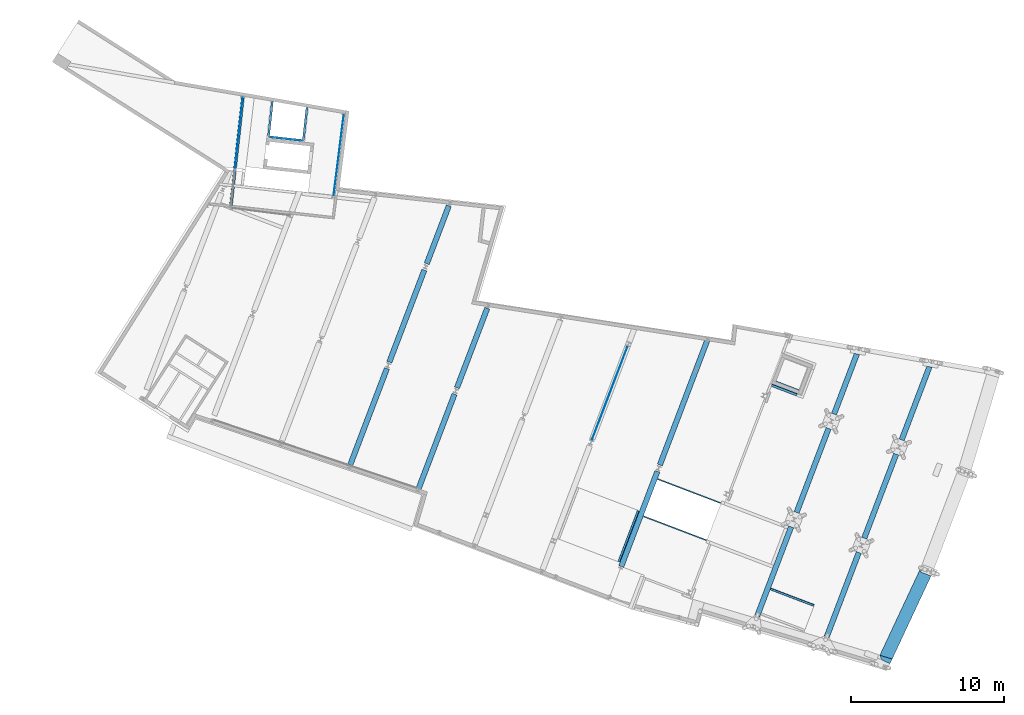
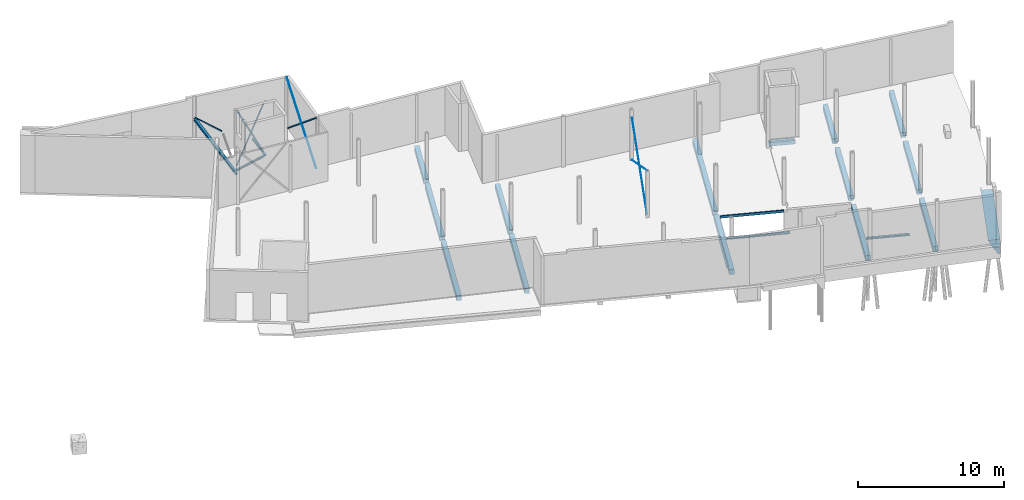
# One storey, part 40 of 46: 26 beams.
"""IFC2X3 building model written with IfcOpenShell, lengths in millimetres."""

from ifc_helpers import new_model, entity, si_unit, converted_unit, derived_unit, direction, frame, frame_2d, origin, origin_2d_with_axis, place, context, subcontext, project, spatial, polyline, circle_curve, parameter, trimmed, segment, composite_curve, rectangle, circle, i_section, outline, extrude, clip, halfspace, bounded_halfspace, source, transform, mapped, material, type_object, type_shapes, element, save


model = new_model("IFC2X3")

# Units and contexts
model_context = context("Model", 3, precision=0.01, world=origin(), true_north=direction((6.123233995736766e-17, 1.0)))
body_context = subcontext(model_context, "Body", "Model", "MODEL_VIEW")
ifc_project = project(units=[si_unit("LENGTHUNIT", "METRE", prefix="MILLI"), converted_unit("PLANEANGLEUNIT", "DEGREE", entity("IfcPlaneAngleMeasure", 0.017453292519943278), si_unit("PLANEANGLEUNIT", "RADIAN"), dimensions=[0, 0, 0, 0, 0, 0, 0]), si_unit("AREAUNIT", "SQUARE_METRE"), derived_unit("THERMALTRANSMITTANCEUNIT", [(si_unit("MASSUNIT", "GRAM", prefix="KILO"), 1), (si_unit("THERMODYNAMICTEMPERATUREUNIT", "KELVIN"), -1), (si_unit("TIMEUNIT", "SECOND"), -3)])], contexts=[model_context])

# Site, building, storey
site_placement = place(None, frame((-72937.88054949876, 11621.45624098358, 0.0), z_axis=(0.0, 0.0, 1.0), x_axis=(0.9346418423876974, -0.35559053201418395, 0.0)))
site = spatial("IfcSite", under=ifc_project, at=site_placement, Name="Default", CompositionType="ELEMENT")
building_placement = place(site_placement, origin())
building = spatial("IfcBuilding", under=site, at=building_placement, CompositionType="ELEMENT")
storey_placement = place(building_placement, origin())
storey = spatial("IfcBuildingStorey", under=building, at=storey_placement, Name="00 begane grond", CompositionType="ELEMENT", Elevation=0.0)

# Beams
ifc_material_1 = material(Name="beton_gewapend_ihw")
beam_type_1 = type_object("IfcBeamType", Name="balk 350x600mm", PredefinedType="BEAM", material=ifc_material_1)
shared_shape_1 = source(origin(), body_context, "Body", "SweptSolid", [
    extrude(rectangle(XDim=430.0000000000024, YDim=349.9999999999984, at=frame_2d((4.334310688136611e-12, 0.0), x_axis=(0.0, 1.0))), frame((48110.0, 15000.0, -445.0), z_axis=(0.0, 1.0, 0.0), x_axis=(-1.0, 0.0, 0.0)), (0.0, 0.0, 1.0), 6654.999999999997),
    clip(extrude(rectangle(XDim=430.0000000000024, YDim=349.9999999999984, at=frame_2d((-4.334310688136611e-12, 0.0), x_axis=(0.0, 1.0))), frame((48110.0, 22105.0, -445.0), z_axis=(0.0, 1.0, 0.0), x_axis=(-1.0, 0.0, 0.0)), (0.0, 0.0, 1.0), 8790.652728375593), halfspace(frame((49694.01432330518, 31194.879408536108, -3160.0), z_axis=(-0.2077333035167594, 0.9781855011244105, 0.0), x_axis=(0.9781855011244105, 0.2077333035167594, 0.0)), False)),
])
type_shapes(beam_type_1, [shared_shape_1])
beam_1_placement = place(storey_placement, origin())
element("IfcBeam", 1, at=beam_1_placement, inside=storey, type_object=beam_type_1, material=ifc_material_1, Name="28.11_SF_BetonBalk:balk 350x600mm", ObjectType="28.11_SF_BetonBalk:balk 350x600mm", context=body_context, shape_type="MappedRepresentation", body=[
    mapped(shared_shape_1, transform((0.0, 0.0, 0.0), scale=1.0)),
])
beam_type_2 = type_object("IfcBeamType", Name="balk 350x600mm", PredefinedType="BEAM", material=ifc_material_1)
shared_shape_2 = source(origin(), body_context, "Body", "SweptSolid", [
    extrude(rectangle(XDim=430.0000000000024, YDim=349.9999999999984, at=frame_2d((0.0, 0.0), x_axis=(0.0, 1.0))), frame((33920.0, 15000.0, -445.0), z_axis=(0.0, 1.0, 0.0), x_axis=(-1.0, 0.0, 0.0)), (0.0, 0.0, 1.0), 6654.999999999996),
    extrude(rectangle(XDim=430.0000000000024, YDim=349.9999999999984, at=frame_2d((0.0, 0.0), x_axis=(0.0, 1.0))), frame((33920.0, 22105.0, -445.0), z_axis=(0.0, 1.0, 0.0), x_axis=(-1.0, 0.0, 0.0)), (0.0, 0.0, 1.0), 5559.24045286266),
])
type_shapes(beam_type_2, [shared_shape_2])
beam_2_placement = place(storey_placement, origin())
element("IfcBeam", 2, at=beam_2_placement, inside=storey, type_object=beam_type_2, material=ifc_material_1, Name="28.11_SF_BetonBalk:balk 350x600mm", ObjectType="28.11_SF_BetonBalk:balk 350x600mm", context=body_context, shape_type="MappedRepresentation", body=[
    mapped(shared_shape_2, transform((0.0, 0.0, 0.0), scale=1.0)),
])
beam_type_3 = type_object("IfcBeamType", Name="balk 350x600mm", PredefinedType="BEAM", material=ifc_material_1)
shared_shape_3 = source(origin(), body_context, "Body", "SweptSolid", [
    extrude(rectangle(XDim=430.0000000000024, YDim=349.9999999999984, at=frame_2d((-4.334310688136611e-12, 0.0), x_axis=(0.0, 1.0))), frame((29190.0, 14900.0, -445.0), z_axis=(0.0, 1.0, 0.0), x_axis=(-1.0, 0.0, 0.0)), (0.0, 0.0, 1.0), 6754.999999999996),
    extrude(rectangle(XDim=430.0000000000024, YDim=349.9999999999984, at=frame_2d((0.0, 0.0), x_axis=(0.0, 1.0))), frame((29190.0, 22105.0, -445.0), z_axis=(0.0, 1.0, 0.0), x_axis=(-1.0, 0.0, 0.0)), (0.0, 0.0, 1.0), 6429.999999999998),
    extrude(rectangle(XDim=430.0000000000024, YDim=349.9999999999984, at=frame_2d((0.0, 0.0), x_axis=(0.0, 1.0))), frame((29190.0, 28985.0, -445.0), z_axis=(0.0, 1.0, 0.0), x_axis=(-1.0, 0.0, 0.0)), (0.0, 0.0, 1.0), 4046.991789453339),
])
type_shapes(beam_type_3, [shared_shape_3])
beam_3_placement = place(storey_placement, origin())
element("IfcBeam", 3, at=beam_3_placement, inside=storey, type_object=beam_type_3, material=ifc_material_1, Name="28.11_SF_BetonBalk:balk 350x600mm", ObjectType="28.11_SF_BetonBalk:balk 350x600mm", context=body_context, shape_type="MappedRepresentation", body=[
    mapped(shared_shape_3, transform((0.0, 0.0, 0.0), scale=1.0)),
])
beam_type_4 = type_object("IfcBeamType", Name="650x600mm", PredefinedType="BEAM")
beam_4_placement = place(storey_placement, frame((66761.7349930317, 14879.248170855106, -60.0), z_axis=(0.0, 0.0, 1.0), x_axis=(0.07392507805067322, 0.997263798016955, 0.0)))
element("IfcBeam", 4, at=beam_4_placement, inside=storey, type_object=beam_type_4, material=ifc_material_1, Name="16.12_Beton balk", ObjectType="i.h.w.g. versterkte betonnen strook", context=body_context, shape_type="SweptSolid", body=[
    clip(clip(clip(clip(extrude(outline(polyline([(-250.23504273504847, -500.0), (-85.23504273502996, -500.0), (585.7051282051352, 500.0), (-250.23504273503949, 500.0), (-250.23504273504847, -500.0)])), frame((428.7766095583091, 250.23504273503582, -670.0), z_axis=(1.0, 0.0, 0.0), x_axis=(0.0, 1.0, 0.0)), (0.0, 0.0, 1.0), 6554.144811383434), halfspace(frame((6975.5187855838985, 950.0, 0.0), z_axis=(0.9993157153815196, 0.03698784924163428, 0.0), x_axis=(0.03698784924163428, -0.9993157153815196, 0.0)), False)), halfspace(frame((-985.30127226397, 12706.926039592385, 0.0), z_axis=(-0.8215194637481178, -0.1211796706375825, 0.5571546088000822), x_axis=(0.14592773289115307, -0.9892952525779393, 0.0)), False)), bounded_halfspace(frame((6715.149392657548, 730.1506199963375, 0.0), z_axis=(0.997263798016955, 0.07392507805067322, 0.0), x_axis=(0.0, 0.0, -1.0)), False, frame((428.7766095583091, 250.23504273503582, -670.0), z_axis=(1.0, 0.0, 0.0), x_axis=(0.0, 1.0, 0.0)), polyline([(-85.23504273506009, -500.0), (479.9155772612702, 342.32640177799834), (479.9155772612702, 500.0), (-250.2350427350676, 500.0), (-250.2350427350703, -500.0), (-85.23504273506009, -500.0)]))), bounded_halfspace(frame((7213.781291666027, 767.1131590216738, 0.0), z_axis=(0.07392507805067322, -0.997263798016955, 0.0), x_axis=(0.0, 0.0, -1.0)), False, frame((428.7766095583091, 250.23504273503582, -670.0), z_axis=(1.0, 0.0, 0.0), x_axis=(0.0, 1.0, 0.0)), polyline([(479.9155772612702, 500.0), (479.9155772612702, 342.32640177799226), (499.7649572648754, 371.9108280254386), (499.7649572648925, 500.0), (479.9155772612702, 500.0)]))),
])
beam_type_5 = type_object("IfcBeamType", Name="balk 350x600mm", PredefinedType="BEAM")
beam_5_placement = place(storey_placement, frame((57570.0, 33979.1734244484, -60.0), z_axis=(0.0, 0.0, 1.0), x_axis=(0.0, -1.0, 0.0)))
element("IfcBeam", 5, at=beam_5_placement, inside=storey, type_object=beam_type_5, material=ifc_material_1, Name="16.12_Beton balk", ObjectType="i.h.w.g. betonnen balk", context=body_context, shape_type="SweptSolid", body=[
    clip(extrude(rectangle(XDim=430.00000000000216, YDim=349.9999999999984, at=frame_2d((-7.105427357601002e-14, 8.668621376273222e-12), x_axis=(1.0, 0.0))), frame((475.61168716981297, 0.0, -385.0), z_axis=(1.0, 0.0, 0.0), x_axis=(0.0, 0.0, -1.0)), (0.0, 0.0, 1.0), 4243.561737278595), halfspace(frame((593.8954705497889, -444.21225970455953, 0.0), z_axis=(-0.9822397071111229, -0.18763037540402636, 0.0), x_axis=(0.0, 0.0, -1.0)), False)),
])
beam_6_placement = place(storey_placement, frame((57570.0, 28260.0, -60.0), z_axis=(0.0, 0.0, 1.0), x_axis=(0.0, -1.0, 0.0)))
element("IfcBeam", 6, at=beam_6_placement, inside=storey, type_object=beam_type_5, material=ifc_material_1, Name="16.12_Beton balk", ObjectType="i.h.w.g. betonnen balk", context=body_context, shape_type="SweptSolid", body=[
    extrude(rectangle(XDim=430.00000000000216, YDim=349.9999999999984, at=frame_2d((0.0, -4.334310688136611e-12), x_axis=(1.0, 0.0))), frame((0.0, 0.0, -385.0), z_axis=(1.0, 0.0, 0.0), x_axis=(0.0, 0.0, -1.0)), (0.0, 0.0, 1.0), 5879.999999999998),
])
beam_7_placement = place(storey_placement, frame((57570.0, 21380.0, -60.0), z_axis=(0.0, 0.0, 1.0), x_axis=(0.0, -1.0, 0.0)))
element("IfcBeam", 7, at=beam_7_placement, inside=storey, type_object=beam_type_5, material=ifc_material_1, Name="16.12_Beton balk", ObjectType="i.h.w.g. betonnen balk", context=body_context, shape_type="SweptSolid", body=[
    extrude(rectangle(XDim=430.00000000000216, YDim=349.9999999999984, at=origin_2d_with_axis()), frame((0.0, 0.0, -385.0), z_axis=(1.0, 0.0, 0.0), x_axis=(0.0, 0.0, -1.0)), (0.0, 0.0, 1.0), 6238.176343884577),
])
beam_8_placement = place(storey_placement, frame((62300.0, 34882.71221364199, -60.0), z_axis=(0.0, 0.0, 1.0), x_axis=(0.0, -1.0, 0.0)))
element("IfcBeam", 8, at=beam_8_placement, inside=storey, type_object=beam_type_5, material=ifc_material_1, Name="16.12_Beton balk", ObjectType="i.h.w.g. betonnen balk", context=body_context, shape_type="SweptSolid", body=[
    clip(extrude(rectangle(XDim=430.0000000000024, YDim=349.9999999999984, at=frame_2d((-1.2789769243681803e-13, 0.0), x_axis=(1.0, 0.0))), frame((475.61168716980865, 0.0, -385.0), z_axis=(1.0, 0.0, 0.0), x_axis=(0.0, 0.0, -1.0)), (0.0, 0.0, 1.0), 5147.10052647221), halfspace(frame((593.8954705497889, -444.2122597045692, 0.0), z_axis=(-0.9822397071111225, -0.18763037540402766, 0.0), x_axis=(0.0, 0.0, -1.0)), False)),
])
beam_9_placement = place(storey_placement, frame((62300.0, 28260.0, -60.0), z_axis=(0.0, 0.0, 1.0), x_axis=(0.0, -1.0, 0.0)))
element("IfcBeam", 9, at=beam_9_placement, inside=storey, type_object=beam_type_5, material=ifc_material_1, Name="16.12_Beton balk", ObjectType="i.h.w.g. betonnen balk", context=body_context, shape_type="SweptSolid", body=[
    extrude(rectangle(XDim=430.00000000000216, YDim=349.9999999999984, at=frame_2d((0.0, -4.334310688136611e-12), x_axis=(1.0, 0.0))), frame((0.0, 0.0, -385.0), z_axis=(1.0, 0.0, 0.0), x_axis=(0.0, 0.0, -1.0)), (0.0, 0.0, 1.0), 5879.999999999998),
])
beam_10_placement = place(storey_placement, frame((62300.0, 21380.0, -60.0), z_axis=(0.0, 0.0, 1.0), x_axis=(0.0, -1.0, 0.0)))
element("IfcBeam", 10, at=beam_10_placement, inside=storey, type_object=beam_type_5, material=ifc_material_1, Name="16.12_Beton balk", ObjectType="i.h.w.g. betonnen balk", context=body_context, shape_type="SweptSolid", body=[
    extrude(rectangle(XDim=430.00000000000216, YDim=349.9999999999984, at=frame_2d((0.0, -4.334310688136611e-12), x_axis=(1.0, 0.0))), frame((0.0, 0.0, -385.0), z_axis=(1.0, 0.0, 0.0), x_axis=(0.0, 0.0, -1.0)), (0.0, 0.0, 1.0), 5894.848463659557),
])
ifc_material_2 = material(Name="metaal_staal_profiel_s235")
beam_type_6 = type_object("IfcBeamType", Name="HEA200", PredefinedType="BEAM")
beam_11_placement = place(storey_placement, frame((14071.945049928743, 34923.263997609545, 2510.0), z_axis=(0.0, 0.0, 1.0), x_axis=(0.25084633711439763, -0.9680269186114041, 0.0)))
element("IfcBeam", 11, at=beam_11_placement, inside=storey, type_object=beam_type_6, material=ifc_material_2, Name="28.11_Stalen balk HEA", ObjectType="stalen balk HEA profiel", context=body_context, shape_type="SweptSolid", body=[
    extrude(i_section(OverallWidth=199.99999999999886, OverallDepth=190.0000000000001, WebThickness=6.500000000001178, FlangeThickness=10.000000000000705, FilletRadius=18.000000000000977, at=frame_2d((5.400124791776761e-13, -1.5916157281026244e-12), x_axis=(0.0, 1.0))), frame((86.09977532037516, 0.0, -95.0), z_axis=(1.0, 0.0, 0.0), x_axis=(0.0, 0.0, -1.0)), (0.0, 0.0, 1.0), 7142.900000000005),
])
ifc_material_3 = material(Name="metaal_staal_generiek")
beam_type_7 = type_object("IfcBeamType", Name="HEA140", PredefinedType="BEAM")
beam_12_placement = place(storey_placement, frame((18794.340568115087, 33617.50500643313, -220.0), z_axis=(0.0, 0.0, 1.0), x_axis=(-0.25101726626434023, 0.9679826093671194, 0.0)))
element("IfcBeam", 12, at=beam_12_placement, inside=storey, type_object=beam_type_7, material=ifc_material_3, Name="28.11_Stalen balk HEA", ObjectType="stalen balk HEA profiel", context=body_context, shape_type="SweptSolid", body=[
    extrude(i_section(OverallWidth=140.00000000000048, OverallDepth=132.99999999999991, WebThickness=5.500000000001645, FlangeThickness=8.500000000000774, FilletRadius=11.999999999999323, at=frame_2d((5.542233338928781e-13, 3.68771679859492e-12), x_axis=(0.0, 1.0))), frame((-0.09999999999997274, 0.0, -66.50000000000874), z_axis=(1.0, 0.0, 0.0), x_axis=(0.0, 0.0, -1.0)), (0.0, 0.0, 1.0), 2190.099999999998),
])
beam_13_placement = place(storey_placement, frame((16568.03744988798, 33039.94512081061, -920.0), z_axis=(0.0, 0.0, 1.0), x_axis=(-0.25101727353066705, 0.9679826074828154, 0.0)))
element("IfcBeam", 13, at=beam_13_placement, inside=storey, type_object=beam_type_7, material=ifc_material_3, Name="28.11_Stalen balk HEA", ObjectType="stalen balk HEA profiel", context=body_context, shape_type="SweptSolid", body=[
    extrude(i_section(OverallWidth=140.00000000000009, OverallDepth=132.99999999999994, WebThickness=5.500000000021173, FlangeThickness=8.500000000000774, FilletRadius=11.999999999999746, at=frame_2d((6.110667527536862e-13, 3.140598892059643e-12), x_axis=(0.0, 1.0))), frame((0.01716060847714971, 0.0, -66.50000000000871), z_axis=(1.0, 0.0, 0.0), x_axis=(0.0, 0.0, -1.0)), (0.0, 0.0, 1.0), 2330.5000000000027),
])
beam_14_placement = place(storey_placement, frame((18789.3202227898, 33636.86465862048, -220.0), z_axis=(-0.2818393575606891, -0.07308658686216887, 0.956673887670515), x_axis=(-0.9260436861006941, -0.2401416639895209, -0.29116159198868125)))
element("IfcBeam", 14, at=beam_14_placement, inside=storey, type_object=beam_type_7, material=ifc_material_3, Name="28.11_Stalen balk HEA", ObjectType="stalen balk HEA profiel", context=body_context, shape_type="SweptSolid", body=[
    extrude(i_section(OverallWidth=140.00000000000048, OverallDepth=133.00000000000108, WebThickness=5.499999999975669, FlangeThickness=8.500000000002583, FilletRadius=11.999999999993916, at=frame_2d((8.171241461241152e-13, -4.46931380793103e-12), x_axis=(0.0, 1.0))), frame((103.28162625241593, 0.0, -66.50000000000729), z_axis=(1.0, 0.0, 0.0), x_axis=(0.0, 0.0, -1.0)), (0.0, 0.0, 1.0), 2221.2000000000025),
])
beam_type_8 = type_object("IfcBeamType", Name="UNP200", PredefinedType="BEAM")
beam_15_placement = place(storey_placement, frame((48110.0, 18628.50000000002, -47.02796560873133)))
element("IfcBeam", 15, at=beam_15_placement, inside=storey, type_object=beam_type_8, material=ifc_material_3, Name="28.11_SF_BalkUNP:UNP200", ObjectType="28.11_SF_BalkUNP:UNP200", context=body_context, shape_type="SweptSolid", body=[
    extrude(outline(composite_curve([segment(polyline([(97.03696682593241, -33.82303725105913), (100.0, -33.82303725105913)]), True, "CONTINUOUS"), segment(polyline([(100.0, -33.82303725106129), (100.0, 41.17696274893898)]), True, "CONTINUOUS"), segment(polyline([(100.0, 41.17696274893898), (-100.0, 41.17696274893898)]), True, "CONTINUOUS"), segment(polyline([(-100.0, 41.17696274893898), (-100.0, -33.82303725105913)]), True, "CONTINUOUS"), segment(polyline([(-100.0, -33.82303725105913), (-97.03696682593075, -33.82303725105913)]), True, "CONTINUOUS"), segment(trimmed(circle_curve(frame_2d((-97.03696682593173, -27.82303725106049), x_axis=(0.0, -1.0)), 6.000000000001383), [parameter(0.0)], [parameter(85.429999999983)], True, "PARAMETER"), True, "CONTINUOUS"), segment(polyline([(-91.05604242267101, -28.301099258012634), (-87.02796560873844, 22.093248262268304)]), True, "CONTINUOUS"), segment(trimmed(circle_curve(frame_2d((-75.56452716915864, 21.1769627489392), x_axis=(-0.9968207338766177, 0.07967700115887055)), 11.499999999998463), [parameter(274.56999999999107)], [parameter(0.0)], True, "PARAMETER"), False, "CONTINUOUS"), segment(polyline([(-75.56452716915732, 32.67696274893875), (75.56452716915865, 32.67696274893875)]), True, "CONTINUOUS"), segment(trimmed(circle_curve(frame_2d((75.56452716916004, 21.1769627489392), x_axis=(0.0, 1.0)), 11.49999999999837), [parameter(274.56999999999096)], [parameter(0.0)], True, "PARAMETER"), False, "CONTINUOUS"), segment(polyline([(87.02796560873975, 22.093248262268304), (91.05604242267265, -28.301099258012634)]), True, "CONTINUOUS"), segment(trimmed(circle_curve(frame_2d((97.03696682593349, -27.823037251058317), x_axis=(-0.9968207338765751, -0.07967700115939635)), 6.0000000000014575), [parameter(0.0)], [parameter(85.4299999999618)], True, "PARAMETER"), True, "CONTINUOUS")], self_intersect=False)), frame((195.0, -41.17696274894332, -100.0), z_axis=(1.0, 0.0, 0.0), x_axis=(0.0, 0.0, -1.0)), (0.0, 0.0, 1.0), 4415.000000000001),
])
beam_16_placement = place(storey_placement, frame((48110.0, 21151.50000000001, -47.02796560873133)))
element("IfcBeam", 16, at=beam_16_placement, inside=storey, type_object=beam_type_8, material=ifc_material_3, Name="28.11_SF_BalkUNP:UNP200", ObjectType="28.11_SF_BalkUNP:UNP200", context=body_context, shape_type="SweptSolid", body=[
    extrude(outline(composite_curve([segment(polyline([(-100.0, -41.17696274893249), (100.0, -41.17696274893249)]), True, "CONTINUOUS"), segment(polyline([(100.0, -41.17696274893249), (100.0, 33.82303725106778)]), True, "CONTINUOUS"), segment(polyline([(100.0, 33.82303725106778), (97.03696682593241, 33.82303725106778)]), True, "CONTINUOUS"), segment(trimmed(circle_curve(frame_2d((97.03696682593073, 27.823037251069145), x_axis=(0.0, 1.0)), 5.999999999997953), [parameter(0.0)], [parameter(85.4300000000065)], True, "PARAMETER"), True, "CONTINUOUS"), segment(polyline([(91.05604242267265, 28.30109925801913), (87.02796560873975, -22.09324826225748)]), True, "CONTINUOUS"), segment(trimmed(circle_curve(frame_2d((75.56452716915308, -21.176962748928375), x_axis=(0.9968207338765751, -0.07967700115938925)), 11.500000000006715), [parameter(274.5700000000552)], [parameter(0.0)], True, "PARAMETER"), False, "CONTINUOUS"), segment(polyline([(75.56452716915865, -32.676962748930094), (-75.56452716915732, -32.676962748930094)]), True, "CONTINUOUS"), segment(trimmed(circle_curve(frame_2d((-75.56452716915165, -21.176962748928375), x_axis=(0.0, -1.0)), 11.500000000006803), [parameter(274.57000000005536)], [parameter(0.0)], True, "PARAMETER"), False, "CONTINUOUS"), segment(polyline([(-87.02796560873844, -22.09324826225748), (-91.05604242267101, 28.301099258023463)]), True, "CONTINUOUS"), segment(trimmed(circle_curve(frame_2d((-97.036966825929, 27.823037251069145), x_axis=(0.9968207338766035, 0.07967700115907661)), 5.999999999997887), [parameter(0.0)], [parameter(85.43000000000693)], True, "PARAMETER"), True, "CONTINUOUS"), segment(polyline([(-97.03696682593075, 33.82303725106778), (-100.0, 33.82303725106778)]), True, "CONTINUOUS"), segment(polyline([(-100.0, 33.82303725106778), (-100.0, -41.17696274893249)]), True, "CONTINUOUS")], self_intersect=False)), frame((195.0, 41.17696274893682, -100.0), z_axis=(1.0, 0.0, 0.0), x_axis=(0.0, 0.0, -1.0)), (0.0, 0.0, 1.0), 4415.000000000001),
])
ifc_material_4 = material(Name="metaal_staal_profiel_s355")
beam_type_9 = type_object("IfcBeamType", Name="20mm", PredefinedType="NOTDEFINED")
beam_17_placement = place(storey_placement, frame((43380.0, 21880.0, -60.0), z_axis=(0.0, -0.48639754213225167, 0.8737376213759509), x_axis=(0.0, 0.8737376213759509, 0.48639754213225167)))
element("IfcBeam", 17, at=beam_17_placement, inside=storey, type_object=beam_type_9, material=ifc_material_4, Name="28.11_SF_WVB-StaafRond:20mm", ObjectType="28.11_SF_WVB-StaafRond:20mm", context=body_context, shape_type="SweptSolid", body=[
    extrude(circle(Radius=9.999999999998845, at=frame_2d((-3.0813704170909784e-25, 1.5448720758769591e-12), x_axis=(1.0, 0.0))), frame((209.3087107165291, 0.0, 0.0), z_axis=(1.0, 0.0, 0.0), x_axis=(0.0, -1.0, 0.0)), (0.0, 0.0, 1.0), 7369.9),
])
beam_18_placement = place(storey_placement, frame((43380.0, 28760.0, -60.0), z_axis=(0.0, 0.48639754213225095, 0.8737376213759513), x_axis=(0.0, -0.8737376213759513, 0.48639754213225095)))
element("IfcBeam", 18, at=beam_18_placement, inside=storey, type_object=beam_type_9, material=ifc_material_4, Name="28.11_SF_WVB-StaafRond:20mm", ObjectType="28.11_SF_WVB-StaafRond:20mm", context=body_context, shape_type="SweptSolid", body=[
    extrude(circle(Radius=9.999999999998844, at=frame_2d((-3.125958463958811e-25, 1.559655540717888e-12), x_axis=(1.0, 0.0))), frame((209.30871071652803, 0.0, 0.0), z_axis=(1.0, 0.0, 0.0), x_axis=(0.0, -1.0, 0.0)), (0.0, 0.0, 1.0), 7369.899999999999),
])
beam_type_10 = type_object("IfcBeamType", Name="L150x15", PredefinedType="BEAM")
beam_19_placement = place(storey_placement, frame((47935.0, 18805.0, -95.0), z_axis=(0.0, 0.0, 1.0), x_axis=(0.0, -1.0, 0.0)))
element("IfcBeam", 19, at=beam_19_placement, inside=storey, type_object=beam_type_10, material=ifc_material_3, Name="28.11_SF_BalkL-Gelijkzijdig:L150x15", ObjectType="{$type(\"IfcObjectType[Type]\")}", context=body_context, shape_type="SweptSolid", body=[
    extrude(outline(composite_curve([segment(polyline([(49.666666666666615, -93.33333333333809), (56.66666666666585, -93.33333333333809)]), True, "CONTINUOUS"), segment(polyline([(56.66666666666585, -93.33333333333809), (56.66666666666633, 56.666666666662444)]), True, "CONTINUOUS"), segment(polyline([(56.66666666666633, 56.666666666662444), (-93.33333333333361, 56.666666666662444)]), True, "CONTINUOUS"), segment(polyline([(-93.33333333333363, 56.666666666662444), (-93.33333333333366, 49.666666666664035)]), True, "CONTINUOUS"), segment(trimmed(circle_curve(frame_2d((-85.33333333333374, 49.666666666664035), x_axis=(-1.0, 0.0)), 7.999999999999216), [parameter(0.0)], [parameter(90.00000000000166)], True, "PARAMETER"), True, "CONTINUOUS"), segment(polyline([(-85.33333333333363, 41.666666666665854), (25.666666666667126, 41.666666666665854)]), True, "CONTINUOUS"), segment(trimmed(circle_curve(frame_2d((25.66666666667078, 25.666666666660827), x_axis=(0.0, 1.0)), 15.999999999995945), [parameter(269.9999999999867)], [parameter(0.0)], True, "PARAMETER"), False, "CONTINUOUS"), segment(polyline([(41.666666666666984, 25.666666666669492), (41.66666666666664, -85.33333333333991)]), True, "CONTINUOUS"), segment(trimmed(circle_curve(frame_2d((49.66666666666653, -85.33333333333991), x_axis=(-1.0, 0.0)), 7.999999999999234), [parameter(0.0)], [parameter(90.00000000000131)], True, "PARAMETER"), True, "CONTINUOUS")], self_intersect=False)), frame((0.0, -56.666666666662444, -93.33333333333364), z_axis=(1.0, 0.0, 0.0), x_axis=(0.0, 0.0, -1.0)), (0.0, 0.0, 1.0), 3560.0000000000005),
])
beam_20_placement = place(storey_placement, frame((57755.0, 17180.0, -95.0)))
element("IfcBeam", 20, at=beam_20_placement, inside=storey, type_object=beam_type_10, material=ifc_material_3, Name="28.11_SF_BalkL-Gelijkzijdig:L150x15", ObjectType="{$type(\"IfcObjectType[Type]\")}", context=body_context, shape_type="SweptSolid", body=[
    extrude(outline(composite_curve([segment(polyline([(49.66666666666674, -93.33333333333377), (56.666666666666, -93.33333333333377)]), True, "CONTINUOUS"), segment(polyline([(56.666666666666, -93.33333333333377), (56.66666666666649, 56.66666666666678)]), True, "CONTINUOUS"), segment(polyline([(56.66666666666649, 56.66666666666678), (-93.33333333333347, 56.66666666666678)]), True, "CONTINUOUS"), segment(polyline([(-93.33333333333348, 56.66666666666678), (-93.33333333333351, 49.66666666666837)]), True, "CONTINUOUS"), segment(trimmed(circle_curve(frame_2d((-85.3333333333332, 49.66666666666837), x_axis=(-1.0, 0.0)), 8.000000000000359), [parameter(0.0)], [parameter(89.99999999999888)], True, "PARAMETER"), True, "CONTINUOUS"), segment(polyline([(-85.33333333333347, 41.66666666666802), (25.66666666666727, 41.66666666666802)]), True, "CONTINUOUS"), segment(trimmed(circle_curve(frame_2d((25.666666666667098, 25.666666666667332), x_axis=(0.0, 1.0)), 15.999999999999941), [parameter(270.00000000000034)], [parameter(0.0)], True, "PARAMETER"), False, "CONTINUOUS"), segment(polyline([(41.66666666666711, 25.666666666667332), (41.66666666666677, -85.33333333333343)]), True, "CONTINUOUS"), segment(trimmed(circle_curve(frame_2d((49.66666666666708, -85.33333333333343), x_axis=(-1.0, 0.0)), 8.00000000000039), [parameter(0.0)], [parameter(89.9999999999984)], True, "PARAMETER"), True, "CONTINUOUS")], self_intersect=False)), frame((0.0, -56.66666666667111, -93.33333333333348), z_axis=(1.0, 0.0, 0.0), x_axis=(0.0, 0.0, -1.0)), (0.0, 0.0, 1.0), 3040.0000000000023),
])
beam_type_11 = type_object("IfcBeamType", Name="300x400mm", PredefinedType="BEAM")
beam_21_placement = place(storey_placement, frame((54860.0, 29940.0, -230.0), z_axis=(0.0, 0.0, 1.0), x_axis=(-1.0, 0.0, 0.0)))
element("IfcBeam", 21, at=beam_21_placement, inside=storey, type_object=beam_type_11, material=ifc_material_1, Name="16.12_Beton balk", ObjectType="i.h.w.g. betonnen balk", context=body_context, shape_type="SweptSolid", body=[
    extrude(outline(polyline([(-46.66666666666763, -250.0), (173.33333333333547, -250.0), (173.33333333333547, 200.0), (-126.66666666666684, 200.0), (-126.66666666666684, 50.0), (-46.666666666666, 50.0), (-46.66666666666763, -250.0)])), frame((0.0, 250.0, -126.66666666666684), z_axis=(1.0, 0.0, 0.0), x_axis=(0.0, 0.0, -1.0)), (0.0, 0.0, 1.0), 1779.999999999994),
])
beam_type_12 = type_object("IfcBeamType", Name="STRIP 10x100", PredefinedType="NOTDEFINED")
beam_22_placement = place(storey_placement, frame((15279.44422966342, 30263.472175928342, 4390.0), z_axis=(-0.09125575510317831, 0.35215992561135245, 0.9314804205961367), x_axis=(-0.23365845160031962, 0.9016981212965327, -0.36379145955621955)))
element("IfcBeam", 22, at=beam_22_placement, inside=storey, type_object=beam_type_12, material=ifc_material_3, Name="28.11_SF_WVB-Strip:STRIP 10x100", ObjectType="28.11_SF_WVB-Strip:STRIP 10x100", context=body_context, shape_type="SweptSolid", body=[
    extrude(rectangle(XDim=100.00000000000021, YDim=9.9999999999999, at=frame_2d((-1.3606893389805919e-12, 1.0480505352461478e-12), x_axis=(1.0, 0.0))), frame((160.0979319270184, 0.0, 0.0), z_axis=(1.0, 0.0, 0.0), x_axis=(0.0, 0.0, -1.0)), (0.0, 0.0, 1.0), 4889.800000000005),
])
beam_23_placement = place(storey_placement, frame((20644.488464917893, 36208.844040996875, -60.0), z_axis=(-0.14890057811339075, 0.6143910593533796, 0.7748240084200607), x_axis=(0.18249911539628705, -0.7530247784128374, 0.63217699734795)))
element("IfcBeam", 23, at=beam_23_placement, inside=storey, type_object=beam_type_12, material=ifc_material_3, Name="28.11_SF_WVB-Strip:STRIP 10x100", ObjectType="28.11_SF_WVB-Strip:STRIP 10x100", context=body_context, shape_type="SweptSolid", body=[
    extrude(rectangle(XDim=100.00000000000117, YDim=9.99999999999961, at=frame_2d((3.3146818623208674e-12, 3.6983749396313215e-12), x_axis=(1.0, 0.0))), frame((171.98392876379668, 0.0, 0.0), z_axis=(1.0, 0.0, 0.0), x_axis=(0.0, 0.0, -1.0)), (0.0, 0.0, 1.0), 6694.100000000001),
])
beam_24_placement = place(storey_placement, frame((21929.130372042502, 30908.176224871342, -60.0), z_axis=(0.14890057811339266, -0.614391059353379, 0.7748240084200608), x_axis=(-0.18249911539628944, 0.753024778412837, 0.6321769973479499)))
element("IfcBeam", 24, at=beam_24_placement, inside=storey, type_object=beam_type_12, material=ifc_material_3, Name="28.11_SF_WVB-Strip:STRIP 10x100", ObjectType="28.11_SF_WVB-Strip:STRIP 10x100", context=body_context, shape_type="SweptSolid", body=[
    extrude(rectangle(XDim=100.00000000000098, YDim=9.999999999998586, at=frame_2d((-8.242295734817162e-13, 4.7202242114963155e-12), x_axis=(1.0, 0.0))), frame((185.78392876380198, 0.0, 0.0), z_axis=(1.0, 0.0, 0.0), x_axis=(0.0, 0.0, -1.0)), (0.0, 0.0, 1.0), 6694.100000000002),
])
beam_type_13 = type_object("IfcBeamType", Name="STRIP 10x100", PredefinedType="BEAM")
beam_25_placement = place(storey_placement, frame((16568.03744988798, 33039.94512081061, -920.0), z_axis=(0.9230306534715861, -0.041600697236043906, -0.38247064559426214), x_axis=(0.3847264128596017, 0.09980785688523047, 0.9176186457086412)))
element("IfcBeam", 25, at=beam_25_placement, inside=storey, type_object=beam_type_13, material=ifc_material_3, Name="28.11_SF_WVB-Strip:STRIP 10x100", ObjectType="28.11_SF_WVB-Strip:STRIP 10x100", context=body_context, shape_type="SweptSolid", body=[
    extrude(rectangle(XDim=100.00000000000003, YDim=10.000000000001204, at=frame_2d((5.151434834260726e-13, -2.367883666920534e-12), x_axis=(1.0, 0.0))), frame((369.4088178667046, 0.0, 0.0), z_axis=(1.0, 0.0, 0.0), x_axis=(0.0, -0.27205268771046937, 0.9622823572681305)), (0.0, 0.0, 1.0), 5060.599999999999),
])
beam_26_placement = place(storey_placement, frame((18794.340568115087, 33617.50500643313, -220.0), z_axis=(0.9018102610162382, -0.05371936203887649, 0.4287802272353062), x_axis=(-0.43213221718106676, -0.11210613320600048, 0.8948150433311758)))
element("IfcBeam", 26, at=beam_26_placement, inside=storey, type_object=beam_type_13, material=ifc_material_3, Name="28.11_SF_WVB-Strip:STRIP 10x100", ObjectType="28.11_SF_WVB-Strip:STRIP 10x100", context=body_context, shape_type="SweptSolid", body=[
    extrude(rectangle(XDim=99.99999999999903, YDim=10.000000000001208, at=frame_2d((2.1316282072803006e-14, 0.0), x_axis=(1.0, 0.0))), frame((325.15132891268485, 0.0, 0.0), z_axis=(1.0, 0.0, 0.0), x_axis=(0.0, -0.27845432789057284, 0.9604494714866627)), (0.0, 0.0, 1.0), 4514.300000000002),
])

save(model, "model.ifc")
